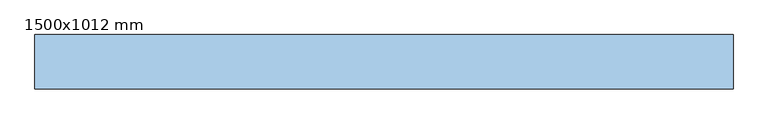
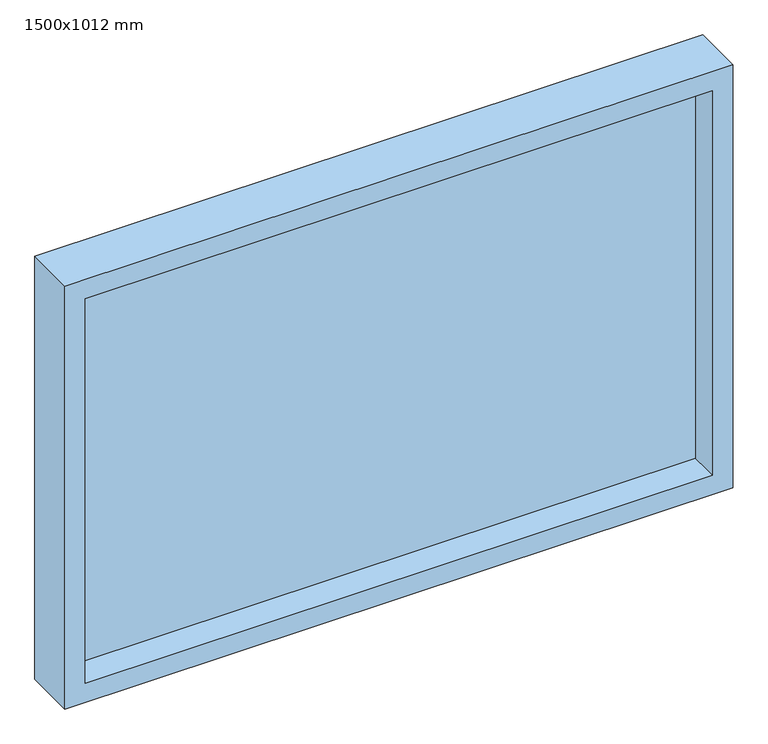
"""IFC4 building model written with IfcOpenShell, lengths in millimetres: window geometry, V_BS-Fals_Sandwich_420mm : 1500x1012 mm."""

from ifc_helpers import new_model, si_unit, frame, origin, place, context, project, spatial, polyline, outline, extrude, source, transform, mapped, element, save


def window_1500x1012_mm_2e799f6e(model_context):
    return source(origin(), model_context, "Body", "SweptSolid", [
        extrude(outline(polyline([(681.0, 122.0), (681.0, 100.0), (-705.0, 100.0), (-705.0, 122.0), (681.0, 122.0)])), frame((0.0, 0.0, 657.0), z_axis=(0.0, 0.0, 1.0), x_axis=(1.0, 0.0, 0.0)), (0.0, 0.0, 1.0), 898.0),
        extrude(outline(polyline([(612.0, -750.0), (612.0, 726.0), (1600.0, 726.0), (1600.0, -750.0), (612.0, -750.0)]), holes=[polyline([(1555.0, -705.0), (1555.0, 681.0), (657.0, 681.0), (657.0, -705.0), (1555.0, -705.0)])]), frame((0.0, 35.0, 0.0), z_axis=(0.0, 1.0, 0.0), x_axis=(0.0, 0.0, 1.0)), (0.0, 0.0, 1.0), 115.0),
    ])


if __name__ == "__main__":
    model = new_model("IFC4")
    model_context = context("Model", 3, world=origin())
    ifc_project = project(units=[si_unit("LENGTHUNIT", "METRE", prefix="MILLI")], contexts=[model_context])
    site = spatial("IfcSite", under=ifc_project)
    building = spatial("IfcBuilding", under=site)
    placement = place(None, origin())
    window_1500x1012_mm_shape = window_1500x1012_mm_2e799f6e(model_context)
    element("IfcWindow", 1, ObjectType="V_BS-Fals_Sandwich_420mm : 1500x1012 mm", at=placement, inside=building, context=model_context, shape_type="MappedRepresentation", body=[
        mapped(window_1500x1012_mm_shape, transform((0.0, 0.0, 0.0), x_axis=(1.0, 0.0, 0.0), y_axis=(0.0, 1.0, 0.0), z_axis=(0.0, 0.0, 1.0))),
    ])
    save(model, "model.ifc")
